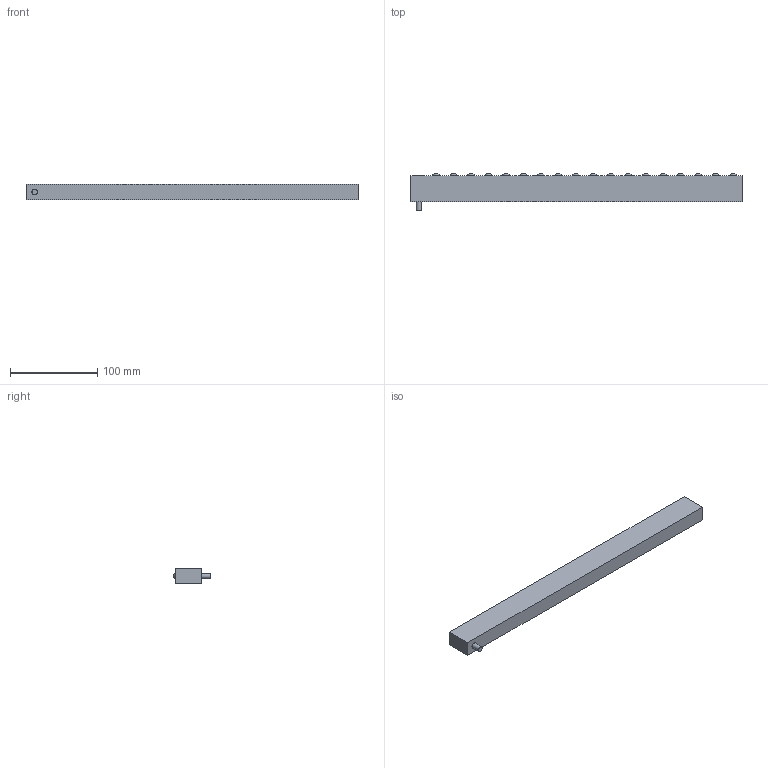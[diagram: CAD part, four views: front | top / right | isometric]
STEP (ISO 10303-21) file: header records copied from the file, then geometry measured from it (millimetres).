
FILE_DESCRIPTION(/* description */ (''),/* implementation_level */ '2;1');
FILE_NAME(/* name */ 'V:\Shrinkwrap\EMB\EMB - SHRINKWRAP\EMB18-18_Shrinkwrap_1.stp',/* time_stamp */ '2022-08-12T10:07:42+02:00',/* author */ ('cw'),/* organization */ (''),/* preprocessor_version */ 'ST-DEVELOPER v17',/* originating_system */ 'Autodesk Inventor 2019',/* authorisation */ '');
FILE_SCHEMA (('AUTOMOTIVE_DESIGN { 1 0 10303 214 3 1 1 }'));
Length unit declared in the file: millimetre
Products named in the file (1): EMB18-18_Shrinkwrap_1
Bounding box: 380 x 42.27 x 17.8 mm (x, y, z)
Volume: 201645.3 mm3; surface area: 38992.9 mm2
Topology: 1 solids, 1 shells, 32 faces, 46 edges, 40 vertices
Faces by surface type: sphere 18, plane 10, cylinder 4
Full cylindrical faces by diameter (mm): 6 x1, 6.5 x1, 10 x1, 11 x1
Entity records: 826 total; most frequent: DIRECTION 138, CARTESIAN_POINT 117, ORIENTED_EDGE 88, AXIS2_PLACEMENT_3D 61, EDGE_LOOP 54, EDGE_CURVE 44, VERTEX_POINT 36, STYLED_ITEM 35
